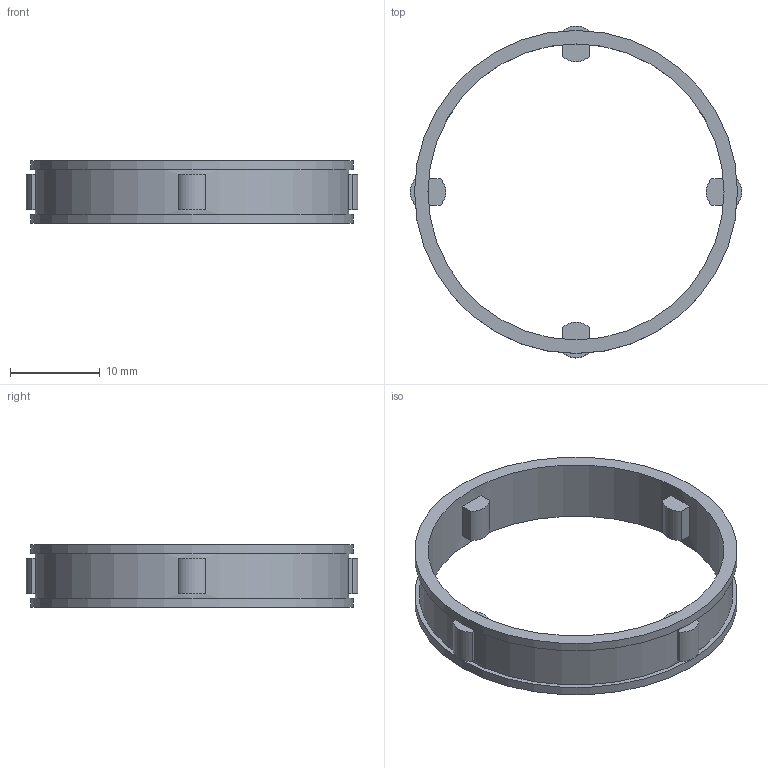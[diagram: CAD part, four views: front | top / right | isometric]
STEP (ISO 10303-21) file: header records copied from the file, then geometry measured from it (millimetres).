
FILE_DESCRIPTION(/* description */ (''),/* implementation_level */ '2;1');
FILE_NAME(/* name */ '300457 FE 437 Z2.stp',/* time_stamp */ '2016-11-03T08:13:51+01:00',/* author */ (''),/* organization */ (''),/* preprocessor_version */ 'ST-DEVELOPER v15',/* originating_system */ 'SIEMENS PLM Software NX 8.5',/* authorisation */ '');
FILE_SCHEMA (('CONFIG_CONTROL_DESIGN'));
Length unit declared in the file: millimetre
Products named in the file (1): ATE0000077_01
Bounding box: 37 x 37 x 7 mm (x, y, z)
Volume: 981.7 mm3; surface area: 2065.7 mm2
Topology: 1 solids, 1 shells, 48 faces, 114 edges, 76 vertices
Faces by surface type: plane 36, cylinder 12
Full cylindrical faces by diameter (mm): 33 x1, 35 x1, 36 x2
Entity records: 1420 total; most frequent: DIRECTION 242, CARTESIAN_POINT 225, ORIENTED_EDGE 208, EDGE_CURVE 104, AXIS2_PLACEMENT_3D 89, VERTEX_POINT 72, LINE 64, VECTOR 64
